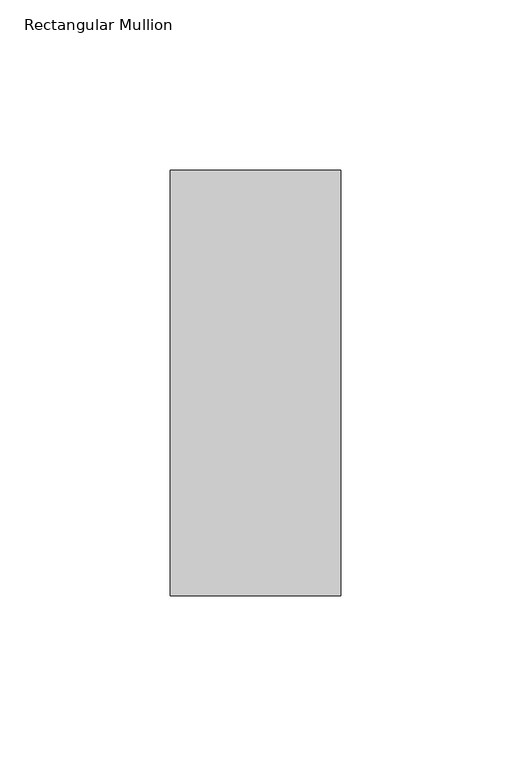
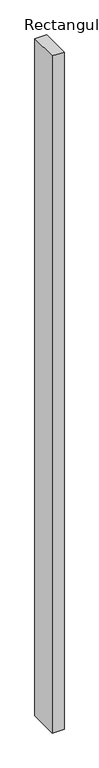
"""IFC4 building model written with IfcOpenShell, lengths in millimetres: member geometry, Rectangular Mullion : RSen_21_CWM_support profile - 50x125 - left_gen_duco projects."""

from ifc_helpers import new_model, si_unit, frame, origin, place, context, project, spatial, polyline, outline, extrude, source, transform, mapped, element, save


def rectangular_mullion_81543344(model_context):
    return source(origin(), model_context, "Body", "SweptSolid", [
        extrude(outline(polyline([(-50.0, -1.0), (-100.0, -1.0), (-100.0, 124.0), (-50.0, 124.0), (-50.0, -1.0)])), frame((0.0, 0.0, -3000.0), z_axis=(0.0, 0.0, 1.0), x_axis=(1.0, 0.0, 0.0)), (0.0, 0.0, 1.0), 3000.0),
    ])


if __name__ == "__main__":
    model = new_model("IFC4")
    model_context = context("Model", 3, world=origin())
    ifc_project = project(units=[si_unit("LENGTHUNIT", "METRE", prefix="MILLI")], contexts=[model_context])
    site = spatial("IfcSite", under=ifc_project)
    building = spatial("IfcBuilding", under=site)
    placement = place(None, origin())
    rectangular_mullion_shape = rectangular_mullion_81543344(model_context)
    element("IfcMember", 1, ObjectType="Rectangular Mullion : RSen_21_CWM_support profile - 50x125 - left_gen_duco projects", at=placement, inside=building, context=model_context, shape_type="MappedRepresentation", body=[
        mapped(rectangular_mullion_shape, transform((0.0, 0.0, 0.0), x_axis=(1.0, 0.0, 0.0), y_axis=(0.0, 1.0, 0.0), z_axis=(0.0, 0.0, 1.0))),
    ])
    save(model, "model.ifc")
